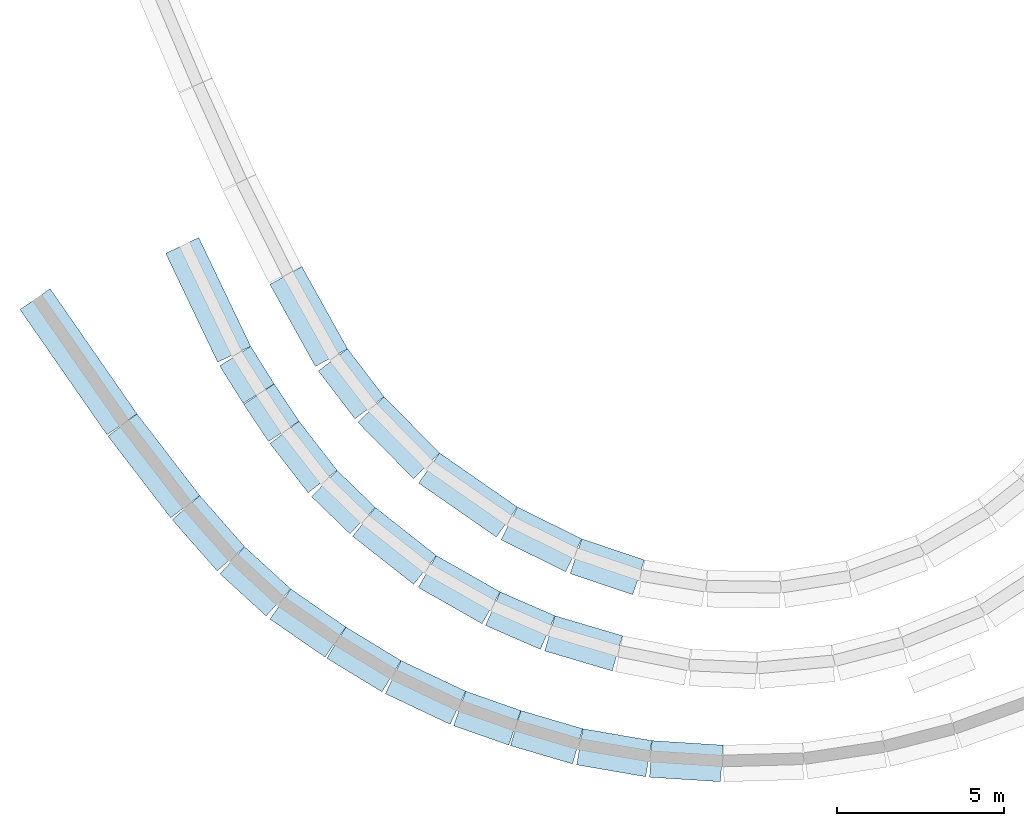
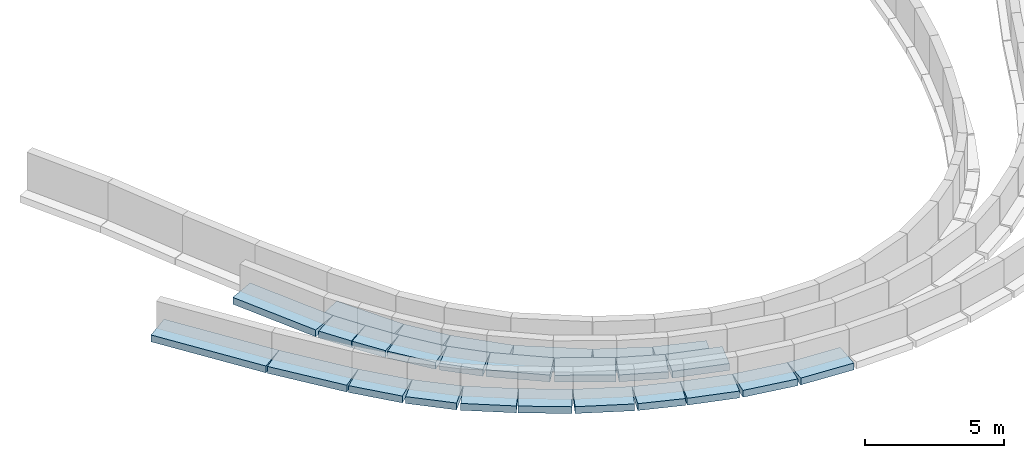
# One storey, part 1 of 6: 26 footings.
"""IFC2X3 building model written with IfcOpenShell, lengths in millimetres."""

import ifcopenshell
import ifcopenshell.guid

model = None  # the IFC model being written
_history = None  # IfcOwnerHistory: only IFC2X3 demands one
_inside = {}  # id of a spatial element -> (the spatial element, [elements in it])
_under = {}  # id of a project, library or spatial element -> (it, [spatial elements below it])
_declared = {}  # id of a project -> (the project, [libraries it declares])
_typed = {}  # id of a type object -> (the type object, [elements of that type])
_made_of = {}  # id of a material, layer set ... -> (it, [elements and type objects made of it])


def new_model(schema):
    """Start an empty IFC model of exactly this schema.

    Asked for "IFC4X3", IfcOpenShell would pick the latest addendum, in which some entities
    have other attributes; the version numbers below select the first issue.
    IFC2X3 requires an IfcOwnerHistory on every rooted entity: one is made here for all.
    """
    global model, _history
    if schema == "IFC4X3":
        model = ifcopenshell.file(schema_version=(4, 3, 0, 0))
    else:
        model = ifcopenshell.file(schema=schema)
    _inside.clear()
    _under.clear()
    _declared.clear()
    _typed.clear()
    _made_of.clear()
    _history = None
    if model.schema == "IFC2X3":
        org = make("IfcOrganization", Name="unknown")
        user = make(
            "IfcPersonAndOrganization",
            ThePerson=make("IfcPerson", FamilyName="unknown"),
            TheOrganization=org,
        )
        app = make(
            "IfcApplication",
            ApplicationDeveloper=org,
            Version="unknown",
            ApplicationFullName="unknown",
            ApplicationIdentifier="unknown",
        )
        _history = make(
            "IfcOwnerHistory",
            OwningUser=user,
            OwningApplication=app,
            ChangeAction="ADDED",
            CreationDate=0,
        )
    return model


def make(cls, **values):
    """One entity of the class cls with the attributes given. An attribute that is None is left unset."""
    return model.create_entity(
        cls, **{name: value for name, value in values.items() if value is not None}
    )


def entity(cls, *values):
    """Any entity or typed value of the class cls, its attributes in the order of the schema. None: left unset."""
    e = model.create_entity(cls)
    for i, value in enumerate(values):
        if value is not None:
            e[i] = value
    return e


def rooted(cls, **values):
    """An entity with a GlobalId (a new one), such as an element, a storey or a relation."""
    return make(cls, GlobalId=ifcopenshell.guid.new(), OwnerHistory=_history, **values)


def si_unit(unit_type, name, prefix=None):
    """IfcSIUnit, for example si_unit("LENGTHUNIT", "METRE", prefix="MILLI")."""
    return make("IfcSIUnit", UnitType=unit_type, Prefix=prefix, Name=name)


def converted_unit(unit_type, name, factor, base, dimensions=None, offset=None):
    """IfcConversionBasedUnit, such as the inch: factor (a typed value) times the base unit."""
    return make(
        "IfcConversionBasedUnit"
        if offset is None
        else "IfcConversionBasedUnitWithOffset",
        ConversionOffset=offset,
        Dimensions=None
        if dimensions is None
        else entity("IfcDimensionalExponents", *dimensions),
        UnitType=unit_type,
        Name=name,
        ConversionFactor=make(
            "IfcMeasureWithUnit", ValueComponent=factor, UnitComponent=base
        ),
    )


def assignment(units):
    """IfcUnitAssignment: the units of a project."""
    return None if units is None else make("IfcUnitAssignment", Units=units)


def point(xyz):
    """IfcCartesianPoint."""
    return None if xyz is None else make("IfcCartesianPoint", Coordinates=xyz)


def direction(xyz):
    """IfcDirection."""
    return None if xyz is None else make("IfcDirection", DirectionRatios=xyz)


def frame(location, z_axis=None, x_axis=None):
    """IfcAxis2Placement3D, a coordinate frame: its origin and axes. An axis left out is left unset."""
    return make(
        "IfcAxis2Placement3D",
        Location=point(location),
        Axis=direction(z_axis),
        RefDirection=direction(x_axis),
    )


def origin():
    """The frame at (0, 0, 0) with its axes left unset."""
    return frame((0.0, 0.0, 0.0))


def origin_with_axes():
    """The frame at (0, 0, 0) with the z axis (0, 0, 1) and the x axis (1, 0, 0) written out."""
    return frame((0.0, 0.0, 0.0), z_axis=(0.0, 0.0, 1.0), x_axis=(1.0, 0.0, 0.0))


def place(relative_to, where):
    """IfcLocalPlacement: puts the frame where relative to a parent placement (None: the world)."""
    return make(
        "IfcLocalPlacement", PlacementRelTo=relative_to, RelativePlacement=where
    )


def context(
    kind, dimensions, precision=None, world=None, true_north=None, identifier=None
):
    """IfcGeometricRepresentationContext, for example the 3D "Model" context."""
    return make(
        "IfcGeometricRepresentationContext",
        ContextIdentifier=identifier,
        ContextType=kind,
        CoordinateSpaceDimension=dimensions,
        Precision=precision,
        WorldCoordinateSystem=world,
        TrueNorth=true_north,
    )


def project(units=None, contexts=None):
    """IfcProject with its units and contexts."""
    return rooted(
        "IfcProject",
        Name="project",
        RepresentationContexts=contexts,
        UnitsInContext=assignment(units),
    )


def spatial(cls, under=None, at=None, **own):
    """A site, building, storey or space (cls), placed at a placement, below another one or the project."""
    s = rooted(cls, ObjectPlacement=at, **own)
    if under is not None:
        _under.setdefault(under.id(), (under, []))[1].append(s)
    return s


def faces_of(points, faces, orient=None, outer=None):
    """IfcFace entities. A face is a list of loops; a loop is a list of indices into points, from 0.

    orient and outer hold one flag for each loop. By default every Orientation is true, the
    first loop of a face is its IfcFaceOuterBound and the others are IfcFaceBound.
    """
    made = []
    for i, loops in enumerate(faces):
        bounds = []
        for j, loop in enumerate(loops):
            is_outer = j == 0 if outer is None else outer[i][j]
            bounds.append(
                make(
                    "IfcFaceOuterBound" if is_outer else "IfcFaceBound",
                    Bound=make("IfcPolyLoop", Polygon=[points[k] for k in loop]),
                    Orientation=True if orient is None else orient[i][j],
                )
            )
        made.append(make("IfcFace", Bounds=bounds))
    return made


def faceted_brep(points, faces, orient=None, outer=None, voids=None):
    """IfcFacetedBrep: a solid bounded by flat faces; with voids (closed shells), ...WithVoids."""
    shared = [point(p) for p in points]
    hull = make("IfcClosedShell", CfsFaces=faces_of(shared, faces, orient, outer))
    if voids is None:
        return make("IfcFacetedBrep", Outer=hull)
    return make(
        "IfcFacetedBrepWithVoids",
        Outer=hull,
        Voids=[
            make(cls, CfsFaces=faces_of(shared, fs, o, b)) for cls, fs, o, b in voids
        ],
    )


def shape(context_of_items, identifier, shape_type, items):
    """IfcShapeRepresentation: the items that make up one representation, for example the "Body"."""
    return make(
        "IfcShapeRepresentation",
        ContextOfItems=context_of_items,
        RepresentationIdentifier=identifier,
        RepresentationType=shape_type,
        Items=items,
    )


def made_of(thing, what):
    """Note that an element or type object is made of a material, layer set ...; save() writes the relation."""
    if what is not None:
        _made_of.setdefault(what.id(), (what, []))[1].append(thing)
    return thing


def element(
    cls,
    number,
    at=None,
    inside=None,
    cuts=None,
    type_object=None,
    material=None,
    context=None,
    identifier="Body",
    shape_type=None,
    held_by="IfcProductDefinitionShape",
    body=None,
    shapes=None,
    **own,
):
    """One element of the class cls, such as IfcWall. Its Tag is "e" and its number.

    at: its placement. inside: the storey or other place that contains it. cuts: it is an
    opening in that element (IfcRelVoidsElement). A single representation is given by context,
    identifier, shape_type and body (its items); several are given by shapes. held_by: the class
    of the entity that holds the representations. save() writes the other relations.
    """
    e = rooted(cls, Tag="e%d" % number, ObjectPlacement=at, **own)
    if body is not None:
        shapes = [shape(context, identifier, shape_type, body)]
    if shapes is not None:
        e.Representation = make(held_by, Representations=shapes)
    if inside is not None:
        _inside.setdefault(inside.id(), (inside, []))[1].append(e)
    if cuts is not None:
        rooted(
            "IfcRelVoidsElement", RelatingBuildingElement=cuts, RelatedOpeningElement=e
        )
    if type_object is not None:
        _typed.setdefault(type_object.id(), (type_object, []))[1].append(e)
    return made_of(e, material)


def aggregate(whole, parts):
    """IfcRelAggregates: a whole, such as a stair, and the parts it consists of."""
    return rooted("IfcRelAggregates", RelatingObject=whole, RelatedObjects=parts)


def save(model, path):
    """Write the relations noted so far, then the file.

    IfcRelAggregates (storeys below a building ...), IfcRelContainedInSpatialStructure (elements
    in a storey), IfcRelDefinesByType, IfcRelAssociatesMaterial and IfcRelDeclares: one each for
    every whole, place, type object, material and project.
    """
    for whole, parts in _under.values():
        aggregate(whole, parts)
    for where, things in _inside.values():
        rooted(
            "IfcRelContainedInSpatialStructure",
            RelatedElements=things,
            RelatingStructure=where,
        )
    for kind, things in _typed.values():
        rooted("IfcRelDefinesByType", RelatedObjects=things, RelatingType=kind)
    for what, things in _made_of.values():
        rooted("IfcRelAssociatesMaterial", RelatedObjects=things, RelatingMaterial=what)
    for by, libraries in _declared.values():
        rooted("IfcRelDeclares", RelatingContext=by, RelatedDefinitions=libraries)
    model.write(path)


model = new_model("IFC2X3")

# Units and contexts
model_context = context("Model", 3, precision=1e-05, world=origin(), true_north=direction((0.0, 1.0, 0.0)))
ifc_project = project(units=[si_unit("LENGTHUNIT", "METRE", prefix="MILLI"), si_unit("AREAUNIT", "SQUARE_METRE"), si_unit("VOLUMEUNIT", "CUBIC_METRE"), converted_unit("PLANEANGLEUNIT", "DEGREE", entity("IfcPlaneAngleMeasure", 0.01745), si_unit("PLANEANGLEUNIT", "RADIAN"), dimensions=[0, 0, 0, 0, 0, 0, 0]), si_unit("SOLIDANGLEUNIT", "STERADIAN"), si_unit("MASSUNIT", "GRAM"), si_unit("TIMEUNIT", "SECOND"), si_unit("THERMODYNAMICTEMPERATUREUNIT", "DEGREE_CELSIUS"), si_unit("LUMINOUSINTENSITYUNIT", "LUMEN")], contexts=[model_context])

# Site, building, storey
site_placement = place(None, origin_with_axes())
site = spatial("IfcSite", under=ifc_project, at=site_placement, Name="Default Site", CompositionType="ELEMENT")
building_placement = place(site_placement, origin_with_axes())
building = spatial("IfcBuilding", under=site, at=building_placement, Name="Default Building", CompositionType="ELEMENT")
storey_placement = place(building_placement, origin_with_axes())
storey = spatial("IfcBuildingStorey", under=building, at=storey_placement, Name="Fundação", CompositionType="ELEMENT", Elevation=0.0)

# Footings
footing_1_placement = place(storey_placement, origin_with_axes())
element("IfcFooting", 1, at=footing_1_placement, inside=storey, Name="IfcFooting - IfcFooting - Viga 65 (110/30)", context=model_context, shape_type="Brep", body=[
    faceted_brep([(-7566.316551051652, -6794.403510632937, -2100.000029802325), (-8332.128664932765, -7584.043847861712, -2100.000029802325), (-7183.069920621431, -8698.428588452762, -2100.000029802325), (-6417.25780674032, -7908.788251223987, -2100.000029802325), (-8332.128664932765, -7584.043847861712, -2400.000041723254), (-7183.069920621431, -8698.428588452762, -2400.000041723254), (-8018.841883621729, -7261.009173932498, -2400.000041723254), (-6869.783124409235, -8375.393884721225, -2400.000041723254), (-7775.174400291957, -7009.759979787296, -2400.000041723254), (-6626.115641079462, -8124.144690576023, -2400.000041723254), (-7566.316551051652, -6794.403510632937, -2400.000041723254), (-6417.25780674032, -7908.788251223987, -2400.000041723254)], [[[0, 1, 2]], [[0, 2, 3]], [[1, 4, 5]], [[1, 5, 2]], [[4, 6, 7]], [[4, 7, 5]], [[6, 8, 9]], [[6, 9, 7]], [[8, 10, 11]], [[8, 11, 9]], [[10, 0, 3]], [[10, 3, 11]], [[5, 3, 2]], [[3, 5, 11]], [[10, 1, 0]], [[1, 10, 4]], [[4, 10, 6]]]),
])
footing_2_placement = place(storey_placement, origin_with_axes())
element("IfcFooting", 2, at=footing_2_placement, inside=storey, Name="IfcFooting - IfcFooting - Viga 66 (110/30)", context=model_context, shape_type="Brep", body=[
    faceted_brep([(-8708.693933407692, -5318.549181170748, -2100.000029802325), (-9578.552660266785, -5991.858775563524, -2100.000029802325), (-8436.175268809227, -7467.71314258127, -2100.000029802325), (-7566.316541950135, -6794.403548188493, -2100.000029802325), (-9578.552660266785, -5991.858775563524, -2400.000041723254), (-8436.175268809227, -7467.71314258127, -2400.000041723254), (-9222.701367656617, -5716.413940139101, -2400.000041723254), (-8080.323961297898, -7192.268277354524, -2400.000041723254), (-8945.928123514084, -5502.179051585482, -2400.000041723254), (-7803.550717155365, -6978.03344840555, -2400.000041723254), (-8708.693933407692, -5318.549181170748, -2400.000041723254), (-7566.316541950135, -6794.403548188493, -2400.000041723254)], [[[0, 1, 2]], [[0, 2, 3]], [[1, 4, 5]], [[1, 5, 2]], [[4, 6, 7]], [[4, 7, 5]], [[6, 8, 9]], [[6, 9, 7]], [[8, 10, 11]], [[8, 11, 9]], [[10, 0, 3]], [[10, 3, 11]], [[5, 3, 2]], [[3, 5, 11]], [[11, 5, 7]], [[11, 7, 9]], [[0, 4, 1]], [[4, 0, 8]], [[8, 0, 10]]]),
])
footing_3_placement = place(storey_placement, origin_with_axes())
element("IfcFooting", 3, at=footing_3_placement, inside=storey, Name="IfcFooting - IfcFooting - Viga 67 (110/30)", context=model_context, shape_type="Brep", body=[
    faceted_brep([(-9453.853602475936, -4200.318815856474, -2100.000029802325), (-10369.23252320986, -4810.303541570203, -2100.000029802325), (-9624.072889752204, -5928.533914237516, -2100.000029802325), (-8708.693969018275, -5318.549188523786, -2100.000029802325), (-10369.23252320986, -4810.303541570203, -2400.000041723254), (-9624.072889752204, -5928.533914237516, -2400.000041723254), (-9994.759338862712, -4560.76431527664, -2400.000041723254), (-9249.59968305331, -5678.994717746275, -2400.000041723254), (-9703.502404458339, -4366.678300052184, -2400.000041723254), (-8958.342718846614, -5484.908642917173, -2400.000041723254), (-9453.853602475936, -4200.318815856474, -2400.000041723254), (-8708.693969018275, -5318.549188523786, -2400.000041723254)], [[[0, 1, 2]], [[0, 2, 3]], [[1, 4, 5]], [[1, 5, 2]], [[4, 6, 7]], [[4, 7, 5]], [[6, 8, 9]], [[6, 9, 7]], [[8, 10, 11]], [[8, 11, 9]], [[10, 0, 3]], [[10, 3, 11]], [[5, 3, 2]], [[3, 5, 11]], [[11, 5, 7]], [[10, 1, 0]], [[1, 10, 4]], [[4, 8, 6]]]),
])
footing_4_placement = place(storey_placement, origin_with_axes())
element("IfcFooting", 4, at=footing_4_placement, inside=storey, Name="IfcFooting - IfcFooting - Viga 64 (110/30)", context=model_context, shape_type="Brep", body=[
    faceted_brep([(-6417.257798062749, -7908.788195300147, -2100.000029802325), (-7098.240626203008, -8772.653064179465, -2100.000029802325), (-5267.935049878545, -10215.47912662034, -2100.000029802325), (-4586.952221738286, -9351.61425774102, -2100.000029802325), (-7098.240626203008, -8772.653064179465, -2400.000041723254), (-5267.935049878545, -10215.47912662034, -2400.000041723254), (-6819.656741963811, -8419.25381724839, -2400.000041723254), (-4989.351165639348, -9862.079849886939, -2400.000041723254), (-6602.980387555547, -8144.387772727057, -2400.000041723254), (-4772.674811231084, -9587.213745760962, -2400.000041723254), (-6417.257798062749, -7908.788195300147, -2400.000041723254), (-4586.952221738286, -9351.61425774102, -2400.000041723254)], [[[0, 1, 2]], [[0, 2, 3]], [[1, 4, 5]], [[1, 5, 2]], [[4, 6, 7]], [[4, 7, 5]], [[6, 8, 9]], [[6, 9, 7]], [[8, 10, 11]], [[8, 11, 9]], [[10, 0, 3]], [[10, 3, 11]], [[5, 3, 2]], [[3, 5, 11]], [[10, 1, 0]], [[1, 10, 4]], [[4, 10, 8]]]),
])
footing_5_placement = place(storey_placement, origin_with_axes())
element("IfcFooting", 5, at=footing_5_placement, inside=storey, Name="IfcFooting - IfcFooting - Viga 62 (110/30)", context=model_context, shape_type="Brep", body=[
    faceted_brep([(-2672.724764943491, -10440.87769403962, -2100.000029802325), (-3112.473290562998, -11449.15405228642, -2100.000029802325), (-1466.175120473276, -12167.16875448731, -2100.000029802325), (-1026.42659485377, -11158.89239624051, -2100.000029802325), (-3112.473290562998, -11449.15405228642, -2400.000041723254), (-1466.175120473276, -12167.16875448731, -2400.000041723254), (-2932.576161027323, -11036.67734876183, -2400.000041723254), (-1286.277990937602, -11754.69206586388, -2400.000041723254), (-2792.656224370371, -10715.86217299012, -2400.000041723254), (-1146.357994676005, -11433.87686028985, -2400.000041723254), (-2672.724764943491, -10440.87769403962, -2400.000041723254), (-1026.42659485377, -11158.89239624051, -2400.000041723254)], [[[0, 1, 2]], [[0, 2, 3]], [[1, 4, 5]], [[1, 5, 2]], [[4, 6, 7]], [[4, 7, 5]], [[6, 8, 9]], [[6, 9, 7]], [[8, 10, 11]], [[8, 11, 9]], [[10, 0, 3]], [[10, 3, 11]], [[5, 3, 2]], [[3, 5, 11]], [[10, 1, 0]], [[1, 10, 4]], [[4, 10, 8]], [[4, 8, 6]]]),
])
footing_6_placement = place(storey_placement, origin_with_axes())
element("IfcFooting", 6, at=footing_6_placement, inside=storey, Name="IfcFooting - IfcFooting - Viga 63 (110/30)", context=model_context, shape_type="Brep", body=[
    faceted_brep([(-4586.952200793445, -9351.614301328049, -2100.000029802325), (-5130.979410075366, -10307.66569567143, -2100.000029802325), (-3216.752043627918, -11396.92909014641, -2100.000029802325), (-2672.724834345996, -10440.87769580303, -2100.000029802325), (-5130.979410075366, -10307.66569567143, -2400.000041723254), (-3216.752043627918, -11396.92909014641, -2400.000041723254), (-4908.422819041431, -9916.553740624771, -2400.000041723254), (-2994.195392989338, -11005.81717980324, -2400.000041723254), (-4735.323301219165, -9612.355535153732, -2400.000041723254), (-2821.095815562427, -10701.61900413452, -2400.000041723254), (-4586.952200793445, -9351.614301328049, -2400.000041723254), (-2672.724834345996, -10440.87769580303, -2400.000041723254)], [[[0, 1, 2]], [[0, 2, 3]], [[1, 4, 5]], [[1, 5, 2]], [[4, 6, 7]], [[4, 7, 5]], [[6, 8, 9]], [[6, 9, 7]], [[8, 10, 11]], [[8, 11, 9]], [[10, 0, 3]], [[10, 3, 11]], [[5, 3, 2]], [[3, 5, 11]], [[11, 5, 7]], [[11, 7, 9]], [[10, 1, 0]], [[1, 10, 6]], [[1, 6, 4]], [[6, 10, 8]]]),
])
footing_7_placement = place(storey_placement, origin_with_axes())
element("IfcFooting", 7, at=footing_7_placement, inside=storey, Name="IfcFooting - IfcFooting - Viga 61 (110/30)", context=model_context, shape_type="Brep", body=[
    faceted_brep([(-1026.426549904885, -11158.89236320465, -2100.000029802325), (-1338.457282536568, -12213.70840062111, -2100.000029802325), (688.3655824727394, -12813.27363838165, -2100.000029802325), (1000.396315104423, -11758.45760096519, -2100.000029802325), (-1338.457282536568, -12213.70840062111, -2400.000041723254), (688.3655824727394, -12813.27363838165, -2400.000041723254), (-1210.80833291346, -11782.1927665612, -2400.000041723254), (816.0145320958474, -12381.75797451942, -2400.000041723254), (-1111.525829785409, -11446.56947244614, -2400.000041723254), (915.2969756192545, -12046.13469158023, -2400.000041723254), (-1026.426549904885, -11158.89236320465, -2400.000041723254), (1000.396315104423, -11758.45760096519, -2400.000041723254)], [[[0, 1, 2]], [[0, 2, 3]], [[1, 4, 5]], [[1, 5, 2]], [[4, 6, 7]], [[4, 7, 5]], [[6, 8, 9]], [[6, 9, 7]], [[8, 10, 11]], [[8, 11, 9]], [[10, 0, 3]], [[10, 3, 11]], [[5, 3, 2]], [[3, 5, 11]], [[11, 7, 9]], [[10, 1, 0]], [[1, 10, 4]], [[4, 10, 8]]]),
])
footing_8_placement = place(storey_placement, origin_with_axes())
element("IfcFooting", 8, at=footing_8_placement, inside=storey, Name="IfcFooting - IfcFooting - Viga 68 (110/30)", context=model_context, shape_type="Brep", body=[
    faceted_brep([(-10158.00500221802, -3074.455707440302, -2100.000029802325), (-11090.62180973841, -3657.744585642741, -2100.000029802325), (-10386.47039540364, -4783.607690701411, -2100.000029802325), (-9453.853587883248, -4200.318812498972, -2100.000029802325), (-11090.62180973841, -3657.744585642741, -2400.000041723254), (-10386.47039540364, -4783.607690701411, -2400.000041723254), (-10709.09674026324, -3419.126420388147, -2400.000041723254), (-10004.94534828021, -4544.989495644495, -2400.000041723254), (-10412.35503115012, -3233.534484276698, -2400.000041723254), (-9708.203654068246, -4359.397589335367, -2400.000041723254), (-10158.00500221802, -3074.455707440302, -2400.000041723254), (-9453.853587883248, -4200.318812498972, -2400.000041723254)], [[[0, 1, 2]], [[0, 2, 3]], [[1, 4, 5]], [[1, 5, 2]], [[4, 6, 7]], [[4, 7, 5]], [[6, 8, 9]], [[6, 9, 7]], [[8, 10, 11]], [[8, 11, 9]], [[10, 0, 3]], [[10, 3, 11]], [[5, 3, 2]], [[3, 5, 11]], [[11, 5, 7]], [[10, 1, 0]], [[1, 10, 4]], [[4, 8, 6]]]),
])
footing_9_placement = place(storey_placement, origin_with_axes())
element("IfcFooting", 9, at=footing_9_placement, inside=storey, Name="IfcFooting - IfcFooting - Viga 69 (110/30)", context=model_context, shape_type="Brep", body=[
    faceted_brep([(-11717.7942911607, 189.9887658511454, -2100.000029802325), (-12710.31545796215, -284.2492722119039, -2100.000029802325), (-11150.52615799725, -3548.693742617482, -2100.000029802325), (-10158.0049911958, -3074.455704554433, -2100.000029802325), (-12710.31545796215, -284.2492722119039, -2400.000041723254), (-11150.52615799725, -3548.693742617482, -2400.000041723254), (-12304.28408779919, -90.24282918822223, -2400.000041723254), (-10744.49478783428, -3354.6872995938, -2400.000041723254), (-11988.48187126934, 60.65109743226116, -2400.000041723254), (-10428.69257130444, -3203.793372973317, -2400.000041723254), (-11717.7942911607, 189.9887658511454, -2400.000041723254), (-10158.0049911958, -3074.455704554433, -2400.000041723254)], [[[0, 1, 2]], [[0, 2, 3]], [[1, 4, 5]], [[1, 5, 2]], [[4, 6, 7]], [[4, 7, 5]], [[6, 8, 9]], [[6, 9, 7]], [[8, 10, 11]], [[8, 11, 9]], [[10, 0, 3]], [[10, 3, 11]], [[5, 3, 2]], [[3, 5, 11]], [[11, 5, 7]], [[10, 1, 0]], [[1, 10, 4]], [[4, 10, 8]]]),
])
footing_10_placement = place(storey_placement, origin_with_axes())
element("IfcFooting", 10, at=footing_10_placement, inside=storey, Name="IfcFooting - IfcFooting - Viga 7 (110/30)", context=model_context, shape_type="Brep", body=[
    faceted_brep([(-6156.631895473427, -4583.129701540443, -3450.000000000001), (-6940.262028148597, -5355.090705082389, -3450.000000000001), (-5275.074192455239, -7045.450029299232, -3450.000000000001), (-4491.444059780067, -6273.489025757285, -3450.000000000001), (-6940.262028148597, -5355.090705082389, -3750.000011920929), (-5275.074192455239, -7045.450029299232, -3750.000011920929), (-6619.686075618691, -5039.28845875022, -3750.000011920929), (-4954.49823992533, -6729.647812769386, -3750.000011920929), (-6370.349236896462, -4793.664512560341, -3750.000011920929), (-4705.161401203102, -6484.023866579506, -3750.000011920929), (-6156.631895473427, -4583.129701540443, -3750.000011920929), (-4491.444059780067, -6273.489025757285, -3750.000011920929)], [[[0, 1, 2]], [[0, 2, 3]], [[1, 4, 5]], [[1, 5, 2]], [[4, 6, 7]], [[4, 7, 5]], [[6, 8, 9]], [[6, 9, 7]], [[8, 10, 11]], [[8, 11, 9]], [[10, 0, 3]], [[10, 3, 11]], [[5, 3, 2]], [[3, 5, 11]], [[0, 4, 1]], [[4, 0, 6]], [[6, 0, 10]], [[6, 10, 8]]]),
])
footing_11_placement = place(storey_placement, origin_with_axes())
element("IfcFooting", 11, at=footing_11_placement, inside=storey, Name="IfcFooting - IfcFooting - Viga 8 (110/30)", context=model_context, shape_type="Brep", body=[
    faceted_brep([(-4491.44405195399, -6273.489006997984, -3450.000000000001), (-5118.942797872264, -7176.95195341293, -3450.000000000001), (-2784.744919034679, -8798.165568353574, -3450.000000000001), (-2157.246173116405, -7894.702621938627, -3450.000000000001), (-5118.942797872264, -7176.95195341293, -3750.000011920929), (-2784.744919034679, -8798.165568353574, -3750.000011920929), (-4862.238825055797, -6807.353505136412, -3750.000011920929), (-2528.040946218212, -8428.567060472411, -3750.000011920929), (-4662.580073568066, -6519.888051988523, -3750.000011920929), (-2328.38219473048, -8141.101607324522, -3750.000011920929), (-4491.44405195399, -6273.489006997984, -3750.000011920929), (-2157.246173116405, -7894.702621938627, -3750.000011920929)], [[[0, 1, 2]], [[0, 2, 3]], [[1, 4, 5]], [[1, 5, 2]], [[4, 6, 7]], [[4, 7, 5]], [[6, 8, 9]], [[6, 9, 7]], [[8, 10, 11]], [[8, 11, 9]], [[10, 0, 3]], [[10, 3, 11]], [[5, 3, 2]], [[3, 5, 11]], [[11, 5, 7]], [[11, 7, 9]], [[10, 1, 0]], [[1, 10, 4]], [[4, 10, 8]], [[4, 8, 6]]]),
])
footing_12_placement = place(storey_placement, origin_with_axes())
element("IfcFooting", 12, at=footing_12_placement, inside=storey, Name="IfcFooting - IfcFooting - Viga 9 (110/30)", context=model_context, shape_type="Brep", body=[
    faceted_brep([(-2157.246119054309, -7894.702593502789, -3450.000000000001), (-2644.240862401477, -8881.02720276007, -3450.000000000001), (-708.4741654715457, -9836.805979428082, -3450.000000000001), (-221.4794221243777, -8850.4813701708, -3450.000000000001), (-2644.240862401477, -8881.02720276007, -3750.000011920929), (-708.4741654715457, -9836.805979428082, -3750.000011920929), (-2445.015675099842, -8477.530787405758, -3750.000011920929), (-509.2490377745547, -9433.30953520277, -3750.000011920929), (-2290.062850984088, -8163.70026272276, -3750.000011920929), (-354.2962136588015, -9119.47898071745, -3750.000011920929), (-2157.246119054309, -7894.702593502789, -3750.000011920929), (-221.4794221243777, -8850.4813701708, -3750.000011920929)], [[[0, 1, 2]], [[0, 2, 3]], [[1, 4, 5]], [[1, 5, 2]], [[4, 6, 7]], [[4, 7, 5]], [[6, 8, 9]], [[6, 9, 7]], [[8, 10, 11]], [[8, 11, 9]], [[10, 0, 3]], [[10, 3, 11]], [[5, 3, 2]], [[3, 5, 11]], [[11, 7, 9]], [[0, 4, 1]], [[4, 0, 6]], [[6, 0, 10]]]),
])
footing_13_placement = place(storey_placement, origin_with_axes())
element("IfcFooting", 13, at=footing_13_placement, inside=storey, Name="IfcFooting - IfcFooting - Viga 6 (110/30)", context=model_context, shape_type="Brep", body=[
    faceted_brep([(-7254.457134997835, -3145.065362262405, -3450.000000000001), (-8128.799382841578, -3812.542493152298, -3450.000000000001), (-7030.974138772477, -5250.606829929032, -3450.000000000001), (-6156.631890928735, -4583.129699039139, -3450.000000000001), (-8128.799382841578, -3812.542493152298, -3750.000011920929), (-7030.974138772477, -5250.606829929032, -3750.000011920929), (-7771.11393610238, -3539.483661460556, -3750.000011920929), (-6673.288677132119, -4977.547998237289, -3750.000011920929), (-7492.914114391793, -3327.104623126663, -3750.000011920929), (-6395.088855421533, -4765.168900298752, -3750.000011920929), (-7254.457134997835, -3145.065362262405, -3750.000011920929), (-6156.631890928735, -4583.129699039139, -3750.000011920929)], [[[0, 1, 2]], [[0, 2, 3]], [[1, 4, 5]], [[1, 5, 2]], [[4, 6, 7]], [[4, 7, 5]], [[6, 8, 9]], [[6, 9, 7]], [[8, 10, 11]], [[8, 11, 9]], [[10, 0, 3]], [[10, 3, 11]], [[5, 3, 2]], [[3, 5, 11]], [[0, 4, 1]], [[4, 0, 6]], [[6, 0, 8]], [[8, 0, 10]]]),
])
footing_14_placement = place(storey_placement, origin_with_axes())
element("IfcFooting", 14, at=footing_14_placement, inside=storey, Name="IfcFooting - IfcFooting - Viga 5 (110/30)", context=model_context, shape_type="Brep", body=[
    faceted_brep([(-8622.562665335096, -681.2952474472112, -3450.000000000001), (-9584.244344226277, -1215.306849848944, -3450.000000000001), (-8216.138768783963, -3679.07700098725, -3450.000000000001), (-7254.45708989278, -3145.065398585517, -3450.000000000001), (-9584.244344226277, -1215.306849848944, -3750.000011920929), (-8216.138768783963, -3679.07700098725, -3750.000011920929), (-9190.829071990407, -996.8476013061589, -3750.000011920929), (-7822.723541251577, -3460.617752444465, -3750.000011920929), (-8884.839478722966, -826.9347862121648, -3750.000011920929), (-7516.733977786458, -3290.704937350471, -3750.000011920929), (-8622.562665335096, -681.2952474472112, -3750.000011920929), (-7254.45708989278, -3145.065398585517, -3750.000011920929)], [[[0, 1, 2]], [[0, 2, 3]], [[1, 4, 5]], [[1, 5, 2]], [[4, 6, 7]], [[4, 7, 5]], [[6, 8, 9]], [[6, 9, 7]], [[8, 10, 11]], [[8, 11, 9]], [[10, 0, 3]], [[10, 3, 11]], [[5, 3, 2]], [[3, 5, 11]], [[11, 5, 7]], [[11, 7, 9]], [[10, 1, 0]], [[1, 10, 4]], [[4, 10, 8]], [[4, 8, 6]]]),
])
footing_15_placement = place(storey_placement, origin_with_axes())
element("IfcFooting", 15, at=footing_15_placement, inside=storey, Name="IfcFooting - IfcFooting - Viga 10 (110/30)", context=model_context, shape_type="Brep", body=[
    faceted_brep([(-221.4794582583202, -8850.481354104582, -3450.000000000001), (-573.1818503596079, -9892.74112175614, -3450.000000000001), (1304.170208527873, -10526.23900066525, -3450.000000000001), (1655.872600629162, -9483.979233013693, -3450.000000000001), (-573.1818503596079, -9892.74112175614, -3750.000011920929), (1304.170208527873, -10526.23900066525, -3750.000011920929), (-429.3036288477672, -9466.36212657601, -3750.000011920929), (1448.048489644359, -10099.86000548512, -3750.000011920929), (-317.3982924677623, -9134.734057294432, -3750.000011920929), (1559.953826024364, -9768.23189150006, -3750.000011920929), (-221.4794582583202, -8850.481354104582, -3750.000011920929), (1655.872600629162, -9483.979233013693, -3750.000011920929)], [[[0, 1, 2]], [[0, 2, 3]], [[1, 4, 5]], [[1, 5, 2]], [[4, 6, 7]], [[4, 7, 5]], [[6, 8, 9]], [[6, 9, 7]], [[8, 10, 11]], [[8, 11, 9]], [[10, 0, 3]], [[10, 3, 11]], [[5, 3, 2]], [[3, 5, 11]], [[11, 5, 7]], [[11, 7, 9]], [[10, 1, 0]], [[1, 10, 4]], [[4, 10, 8]], [[4, 8, 6]]]),
])
footing_16_placement = place(storey_placement, origin_with_axes())
element("IfcFooting", 16, at=footing_16_placement, inside=storey, Name="IfcFooting - IfcFooting - Viga 113 (110/30)", context=model_context, shape_type="Brep", body=[
    faceted_brep([(-8954.676623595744, -10354.58182494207, -1200.00002980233), (-9579.833145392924, -11259.66709802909, -1200.00002980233), (-7928.829665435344, -12400.04085700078, -1200.00002980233), (-7303.673143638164, -11494.95558391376, -1200.00002980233), (-9579.833145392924, -11259.66709802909, -1500.000041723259), (-7928.829665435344, -12400.04085700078, -1500.000041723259), (-9324.087257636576, -10889.40494458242, -1500.000041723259), (-7673.083837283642, -12029.77871100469, -1500.000041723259), (-9125.17386223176, -10601.42325560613, -1500.000041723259), (-7474.170382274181, -11741.7970220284, -1500.000041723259), (-8954.676623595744, -10354.58182494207, -1500.000041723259), (-7303.673143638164, -11494.95558391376, -1500.000041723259)], [[[0, 1, 2]], [[0, 2, 3]], [[1, 4, 5]], [[1, 5, 2]], [[4, 6, 7]], [[4, 7, 5]], [[6, 8, 9]], [[6, 9, 7]], [[8, 10, 11]], [[8, 11, 9]], [[10, 0, 3]], [[10, 3, 11]], [[5, 3, 2]], [[3, 5, 11]], [[11, 5, 7]], [[10, 1, 0]], [[1, 10, 4]], [[4, 8, 6]]]),
])
footing_17_placement = place(storey_placement, origin_with_axes())
element("IfcFooting", 17, at=footing_17_placement, inside=storey, Name="IfcFooting - IfcFooting - Viga 112 (110/30)", context=model_context, shape_type="Brep", body=[
    faceted_brep([(-7303.67317402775, -11494.95560460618, -1200.00002980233), (-7875.491466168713, -12434.64909651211, -1200.00002980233), (-6219.193007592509, -13442.53260427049, -1200.00002980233), (-5647.374715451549, -12502.83911236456, -1200.00002980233), (-7875.491466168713, -12434.64909651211, -1500.000041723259), (-6219.193007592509, -13442.53260427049, -1500.000041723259), (-7641.565765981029, -12050.22901826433, -1500.000041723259), (-5985.267367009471, -13058.1125670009, -1500.000041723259), (-7459.62360108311, -11751.23560958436, -1500.000041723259), (-5803.325202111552, -12759.11915832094, -1500.000041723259), (-7303.67317402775, -11494.95560460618, -1500.000041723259), (-5647.374715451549, -12502.83911236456, -1500.000041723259)], [[[0, 1, 2]], [[0, 2, 3]], [[1, 4, 5]], [[1, 5, 2]], [[4, 6, 7]], [[4, 7, 5]], [[6, 8, 9]], [[6, 9, 7]], [[8, 10, 11]], [[8, 11, 9]], [[10, 0, 3]], [[10, 3, 11]], [[5, 3, 2]], [[3, 5, 11]], [[11, 7, 9]], [[10, 1, 0]], [[1, 10, 4]], [[4, 8, 6]]]),
])
footing_18_placement = place(storey_placement, origin_with_axes())
element("IfcFooting", 18, at=footing_18_placement, inside=storey, Name="IfcFooting - IfcFooting - Viga 111 (110/30)", context=model_context, shape_type="Brep", body=[
    faceted_brep([(-5647.374761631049, -12502.83912627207, -1200.00002980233), (-6117.990208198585, -13497.08308709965, -1200.00002980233), (-4177.345288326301, -14415.66804854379, -1200.00002980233), (-3706.729841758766, -13421.4240877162, -1200.00002980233), (-6117.990208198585, -13497.08308709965, -1500.000041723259), (-4177.345288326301, -14415.66804854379, -1500.000041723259), (-5925.465775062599, -13090.34691063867, -1500.000041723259), (-3984.820735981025, -14008.93191306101, -1500.000041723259), (-5775.724423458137, -12773.99656979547, -1500.000041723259), (-3835.079503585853, -13692.58152751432, -1500.000041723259), (-5647.374761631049, -12502.83912627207, -1500.000041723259), (-3706.729841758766, -13421.4240877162, -1500.000041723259)], [[[0, 1, 2]], [[0, 2, 3]], [[1, 4, 5]], [[1, 5, 2]], [[4, 6, 7]], [[4, 7, 5]], [[6, 8, 9]], [[6, 9, 7]], [[8, 10, 11]], [[8, 11, 9]], [[10, 0, 3]], [[10, 3, 11]], [[5, 3, 2]], [[3, 5, 11]], [[11, 5, 7]], [[11, 7, 9]], [[10, 1, 0]], [[1, 10, 4]], [[4, 8, 6]]]),
])
footing_19_placement = place(storey_placement, origin_with_axes())
element("IfcFooting", 19, at=footing_19_placement, inside=storey, Name="IfcFooting - IfcFooting - Viga 109 (110/30)", context=model_context, shape_type="Brep", body=[
    faceted_brep([(-2052.661760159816, -14001.47278267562, -1200.00002980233), (-2362.623615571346, -15056.89857560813, -1200.00002980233), (-502.6855304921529, -15603.13303429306, -1200.00002980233), (-192.7236750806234, -14547.70724136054, -1200.00002980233), (-2362.623615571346, -15056.89857560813, -1500.000041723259), (-502.6855304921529, -15603.13303429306, -1500.000041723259), (-2235.821051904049, -14625.13348120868, -1500.000041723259), (-375.8829072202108, -15171.36795479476, -1500.000041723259), (-2137.196822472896, -14289.31618887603, -1500.000041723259), (-277.2586777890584, -14835.55064011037, -1500.000041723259), (-2052.661760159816, -14001.47278267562, -1500.000041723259), (-192.7236750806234, -14547.70724136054, -1500.000041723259)], [[[0, 1, 2]], [[0, 2, 3]], [[1, 4, 5]], [[1, 5, 2]], [[4, 6, 7]], [[4, 7, 5]], [[6, 8, 9]], [[6, 9, 7]], [[8, 10, 11]], [[8, 11, 9]], [[10, 0, 3]], [[10, 3, 11]], [[5, 3, 2]], [[3, 5, 11]], [[11, 5, 7]], [[11, 7, 9]], [[10, 1, 0]], [[1, 10, 4]]]),
])
footing_20_placement = place(storey_placement, origin_with_axes())
element("IfcFooting", 20, at=footing_20_placement, inside=storey, Name="IfcFooting - IfcFooting - Viga 110 (110/30)", context=model_context, shape_type="Brep", body=[
    faceted_brep([(-3706.729789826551, -13421.42406294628, -1200.00002980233), (-4070.744117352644, -14459.44798181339, -1200.00002980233), (-2416.676064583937, -15039.49669192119, -1200.00002980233), (-2052.661737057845, -14001.47277305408, -1200.00002980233), (-4070.744117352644, -14459.44798181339, -1500.000041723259), (-2416.676064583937, -15039.49669192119, -1500.000041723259), (-3921.829124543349, -14034.80184266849, -1500.000041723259), (-2267.761131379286, -14614.85052297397, -1500.000041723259), (-3806.006392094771, -13704.52150891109, -1500.000041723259), (-2151.938398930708, -14284.57020039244, -1500.000041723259), (-3706.729789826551, -13421.42406294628, -1500.000041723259), (-2052.661737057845, -14001.47277305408, -1500.000041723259)], [[[0, 1, 2]], [[0, 2, 3]], [[1, 4, 5]], [[1, 5, 2]], [[4, 6, 7]], [[4, 7, 5]], [[6, 8, 9]], [[6, 9, 7]], [[8, 10, 11]], [[8, 11, 9]], [[10, 0, 3]], [[10, 3, 11]], [[5, 3, 2]], [[3, 5, 11]], [[11, 5, 7]], [[10, 1, 0]], [[1, 10, 4]], [[4, 10, 8]], [[4, 8, 6]]]),
])
footing_21_placement = place(storey_placement, origin_with_axes())
element("IfcFooting", 21, at=footing_21_placement, inside=storey, Name="IfcFooting - IfcFooting - Viga 115 (110/30)", context=model_context, shape_type="Brep", body=[
    faceted_brep([(-11687.32053142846, -7552.092749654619, -1200.00002980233), (-12514.07680016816, -8277.678120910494, -1200.00002980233), (-11165.99166494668, -9813.73162943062, -1200.00002980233), (-10339.23539620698, -9088.146258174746, -1200.00002980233), (-12514.07680016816, -8277.678120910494, -1500.000041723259), (-11165.99166494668, -9813.73162943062, -1500.000041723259), (-12175.8583496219, -7980.847734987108, -1500.000041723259), (-10827.7731845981, -9516.901213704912, -1500.000041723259), (-11912.79953819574, -7749.979693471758, -1500.000041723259), (-10564.71434336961, -9286.033172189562, -1500.000041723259), (-11687.32053142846, -7552.092749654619, -1500.000041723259), (-10339.23539620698, -9088.146258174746, -1500.000041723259)], [[[0, 1, 2]], [[0, 2, 3]], [[1, 4, 5]], [[1, 5, 2]], [[4, 6, 7]], [[4, 7, 5]], [[6, 8, 9]], [[6, 9, 7]], [[8, 10, 11]], [[8, 11, 9]], [[10, 0, 3]], [[10, 3, 11]], [[5, 3, 2]], [[3, 5, 11]], [[11, 5, 7]], [[11, 7, 9]], [[10, 1, 0]], [[1, 10, 8]], [[1, 8, 4]], [[4, 8, 6]]]),
])
footing_22_placement = place(storey_placement, origin_with_axes())
element("IfcFooting", 22, at=footing_22_placement, inside=storey, Name="IfcFooting - IfcFooting - Viga 108 (110/30)", context=model_context, shape_type="Brep", body=[
    faceted_brep([(-192.723593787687, -14547.70726419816, -1200.00002980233), (-379.2627669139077, -15631.77511550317, -1200.00002980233), (1692.997374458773, -15988.35581995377, -1200.00002980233), (1879.536547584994, -14904.28796864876, -1200.00002980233), (-379.2627669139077, -15631.77511550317, -1500.000041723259), (1692.997374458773, -15988.35581995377, -1500.000041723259), (-302.9512978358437, -15188.29279847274, -1500.000041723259), (1769.308843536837, -15544.87354017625, -1500.000041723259), (-243.5979462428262, -14843.36209751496, -1500.000041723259), (1828.662314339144, -15199.94285411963, -1500.000041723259), (-192.723593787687, -14547.70726419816, -1500.000041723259), (1879.536547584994, -14904.28796864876, -1500.000041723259)], [[[0, 1, 2]], [[0, 2, 3]], [[1, 4, 5]], [[1, 5, 2]], [[4, 6, 7]], [[4, 7, 5]], [[6, 8, 9]], [[6, 9, 7]], [[8, 10, 11]], [[8, 11, 9]], [[10, 0, 3]], [[10, 3, 11]], [[5, 3, 2]], [[3, 5, 11]], [[11, 7, 9]], [[0, 4, 1]], [[4, 0, 8]], [[8, 0, 10]]]),
])
footing_23_placement = place(storey_placement, origin_with_axes())
element("IfcFooting", 23, at=footing_23_placement, inside=storey, Name="IfcFooting - IfcFooting - Viga 117 (110/30)", context=model_context, shape_type="Brep", body=[
    faceted_brep([(-16178.24112646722, -1343.396487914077, -1200.00002980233), (-17081.77935354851, -1970.786991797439, -1200.00002980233), (-14473.59358542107, -5726.973357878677, -1200.00002980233), (-13570.05535833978, -5099.582853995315, -1200.00002980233), (-17081.77935354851, -1970.786991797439, -1500.000041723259), (-14473.59358542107, -5726.973357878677, -1500.000041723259), (-16712.15008967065, -1714.127245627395, -1500.000041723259), (-14103.9643215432, -5470.313611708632, -1500.000041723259), (-16424.66067545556, -1514.503064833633, -1500.000041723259), (-13816.47490732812, -5270.689430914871, -1500.000041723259), (-16178.24112646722, -1343.396487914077, -1500.000041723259), (-13570.05535833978, -5099.582853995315, -1500.000041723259)], [[[0, 1, 2]], [[0, 2, 3]], [[1, 4, 5]], [[1, 5, 2]], [[4, 6, 7]], [[4, 7, 5]], [[6, 8, 9]], [[6, 9, 7]], [[8, 10, 11]], [[8, 11, 9]], [[10, 0, 3]], [[10, 3, 11]], [[5, 3, 2]], [[3, 5, 11]], [[11, 7, 9]], [[10, 1, 0]], [[1, 10, 4]], [[4, 10, 8]], [[4, 8, 6]]]),
])
footing_24_placement = place(storey_placement, origin_with_axes())
element("IfcFooting", 24, at=footing_24_placement, inside=storey, Name="IfcFooting - IfcFooting - Viga 114 (110/30)", context=model_context, shape_type="Brep", body=[
    faceted_brep([(-10339.23537392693, -9088.146268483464, -1200.00002980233), (-11081.65813345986, -9899.816407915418, -1200.00002980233), (-9697.099396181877, -11166.25195657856, -1200.00002980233), (-8954.676636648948, -10354.5818171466, -1200.00002980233), (-11081.65813345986, -9899.816407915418, -1500.000041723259), (-9697.099396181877, -11166.25195657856, -1500.000041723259), (-10777.93974537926, -9567.769526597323, -1500.000041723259), (-9393.381008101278, -10834.20509016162, -1500.000041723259), (-10541.71431918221, -9309.510826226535, -1500.000041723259), (-9157.155581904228, -10575.94638979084, -1500.000041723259), (-10339.23537392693, -9088.146268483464, -1500.000041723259), (-8954.676636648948, -10354.5818171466, -1500.000041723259)], [[[0, 1, 2]], [[0, 2, 3]], [[1, 4, 5]], [[1, 5, 2]], [[4, 6, 7]], [[4, 7, 5]], [[6, 8, 9]], [[6, 9, 7]], [[8, 10, 11]], [[8, 11, 9]], [[10, 0, 3]], [[10, 3, 11]], [[5, 3, 2]], [[3, 5, 11]], [[10, 1, 0]], [[1, 10, 4]], [[4, 10, 8]]]),
])
footing_25_placement = place(storey_placement, origin_with_axes())
element("IfcFooting", 25, at=footing_25_placement, inside=storey, Name="IfcFooting - IfcFooting - Viga 107 (110/30)", context=model_context, shape_type="Brep", body=[
    faceted_brep([(1879.536564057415, -14904.28797483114, -1200.00002980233), (1809.509093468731, -16002.05669879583, -1200.00002980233), (3938.800031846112, -16137.88573026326, -1200.00002980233), (4008.827502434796, -15040.11700629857, -1200.00002980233), (1809.509093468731, -16002.05669879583, -1500.000041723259), (3938.800031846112, -16137.88573026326, -1500.000041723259), (1838.156754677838, -15552.96949997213, -1500.000041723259), (3967.447573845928, -15688.79851281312, -1500.000041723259), (1860.438162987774, -15203.67945313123, -1500.000041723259), (3989.729101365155, -15339.50846969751, -1500.000041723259), (1879.536564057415, -14904.28797483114, -1500.000041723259), (4008.827502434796, -15040.11700629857, -1500.000041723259)], [[[0, 1, 2]], [[0, 2, 3]], [[1, 4, 5]], [[1, 5, 2]], [[4, 6, 7]], [[4, 7, 5]], [[6, 8, 9]], [[6, 9, 7]], [[8, 10, 11]], [[8, 11, 9]], [[10, 0, 3]], [[10, 3, 11]], [[5, 3, 2]], [[3, 5, 11]], [[11, 5, 7]], [[11, 7, 9]], [[10, 1, 0]], [[1, 10, 4]], [[4, 8, 6]]]),
])
footing_26_placement = place(storey_placement, origin_with_axes())
element("IfcFooting", 26, at=footing_26_placement, inside=storey, Name="IfcFooting - IfcFooting - Viga 116 (110/30)", context=model_context, shape_type="Brep", body=[
    faceted_brep([(-13570.05539361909, -5099.582930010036, -1200.00002980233), (-14442.5967020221, -5769.412537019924, -1200.00002980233), (-12559.8618072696, -8221.922417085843, -1200.00002980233), (-11687.32049886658, -7552.092810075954, -1200.00002980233), (-14442.5967020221, -5769.412537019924, -1500.000041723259), (-12559.8618072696, -8221.922417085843, -1500.000041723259), (-14085.64796869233, -5495.391388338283, -1500.000041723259), (-12202.91307393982, -7947.9012684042, -1500.000041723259), (-13808.02121583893, -5282.263775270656, -1500.000041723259), (-11925.28632108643, -7734.773655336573, -1500.000041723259), (-13570.05539361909, -5099.582930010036, -1500.000041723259), (-11687.32049886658, -7552.092810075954, -1500.000041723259)], [[[0, 1, 2]], [[0, 2, 3]], [[1, 4, 5]], [[1, 5, 2]], [[4, 6, 7]], [[4, 7, 5]], [[6, 8, 9]], [[6, 9, 7]], [[8, 10, 11]], [[8, 11, 9]], [[10, 0, 3]], [[10, 3, 11]], [[5, 3, 2]], [[3, 5, 11]], [[11, 5, 7]], [[10, 1, 0]], [[1, 10, 4]], [[4, 10, 8]], [[4, 8, 6]]]),
])

save(model, "model.ifc")
